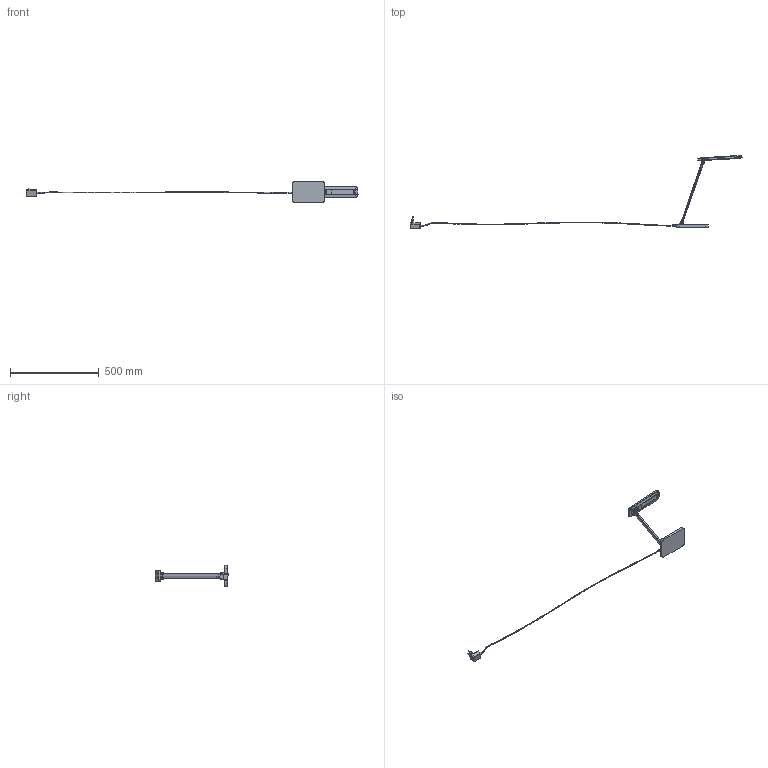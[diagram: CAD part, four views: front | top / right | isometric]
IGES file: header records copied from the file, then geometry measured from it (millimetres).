
Start section: SolidWorks IGES file using analytic representation for surfaces
Global section: file name: F:\GABRYSIA\MODELE 3D\STYLE-LED-8404-WWW\STYLE-LED-8404.IGS; native system: SolidWorks 2017; preprocessor: SolidWorks 2017; author: Togambi; date: 200903.124029; units: millimetre
Bounding box: 1866.47 x 410.5 x 120 mm (x, y, z)
Surface area: 159516.9 mm2 (no closed solid volume)
Topology: 0 solids, 0 shells, 669 faces, 8681 edges, 8681 vertices
Faces by surface type: bspline 461, revolution 208
